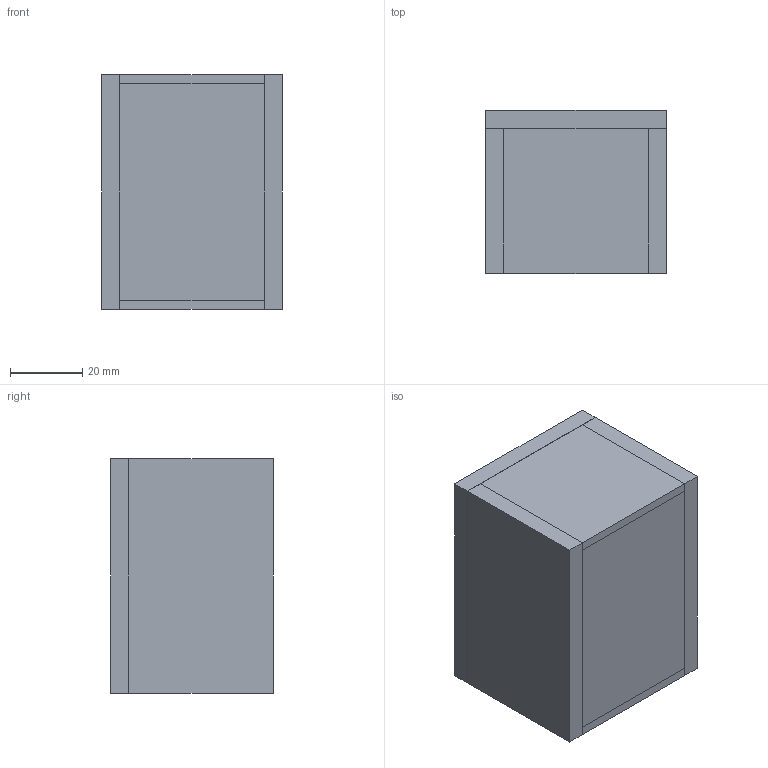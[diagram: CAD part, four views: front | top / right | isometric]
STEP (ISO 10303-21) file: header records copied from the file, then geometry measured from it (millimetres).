
FILE_DESCRIPTION(/* description */ (''),/* implementation_level */ '2;1');
FILE_NAME(/* name */ 'E:\OneDrive\Desktop\N5_GC_Sections\Task 8\ASSY_Taks_8.stp',/* time_stamp */ '2020-06-08T22:11:00+01:00',/* author */ ('hunte'),/* organization */ (''),/* preprocessor_version */ 'ST-DEVELOPER v18.1',/* originating_system */ 'Autodesk Inventor 2020',/* authorisation */ '');
FILE_SCHEMA (('AUTOMOTIVE_DESIGN { 1 0 10303 214 3 1 1 }'));
Length unit declared in the file: millimetre
Products named in the file (6): ASSY_Taks_8; Part_A; Part_B_v2; Part_C; Part_D; Part_E
Assembly tree (5 placements, depth 2):
  ASSY_Taks_8
    Part_A
    Part_B_v2
    Part_C
    Part_D
    Part_E
Bounding box: 50 x 45 x 65 mm (x, y, z)
Volume: 98125 mm3; surface area: 49625 mm2
Topology: 7 solids, 7 shells, 56 faces, 120 edges, 80 vertices
Faces by surface type: plane 56
Entity records: 1701 total; most frequent: CARTESIAN_POINT 267, DIRECTION 254, ORIENTED_EDGE 240, LINE 120, VECTOR 120, EDGE_CURVE 120, VERTEX_POINT 80, AXIS2_PLACEMENT_3D 67
